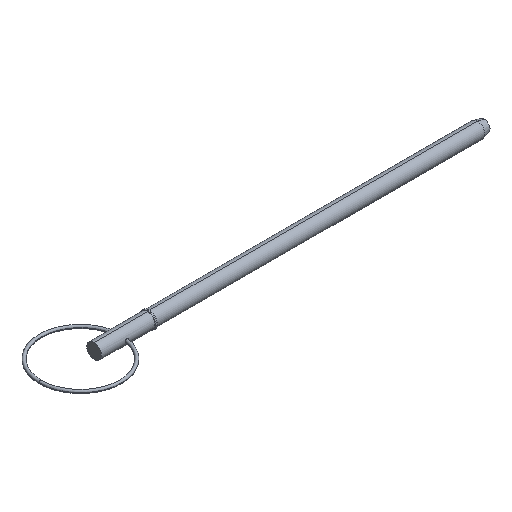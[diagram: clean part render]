
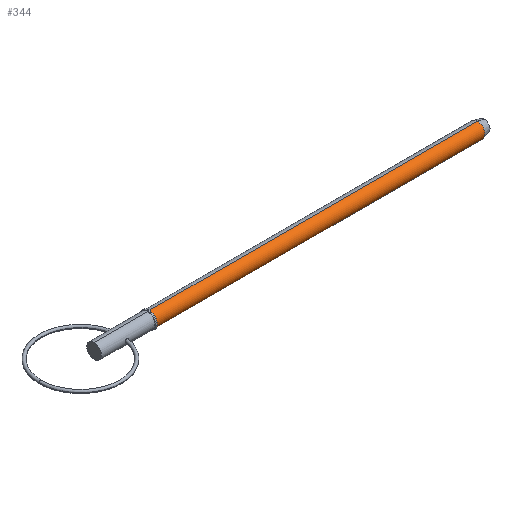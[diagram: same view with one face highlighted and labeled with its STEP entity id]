
A CAD part, isometric view. The second image highlights one B-rep face of the part: STEP entity #344.
In plain terms, the highlighted cylindrical face has radius 2.38 mm (diameter 4.76 mm), a partial arc.
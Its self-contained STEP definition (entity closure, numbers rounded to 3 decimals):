
#1 = FACE_OUTER_BOUND ( 'NONE', #764, .T. ) ;
#19 = AXIS2_PLACEMENT_3D ( 'NONE', #805, #727, #814 ) ;
#27 = ORIENTED_EDGE ( 'NONE', *, *, #901, .F. ) ;
#31 = LINE ( 'NONE', #90, #217 ) ;
#41 = CARTESIAN_POINT ( 'NONE',  ( 17.45, 0., 0. ) ) ;
#76 = CARTESIAN_POINT ( 'NONE',  ( 121.909, 0., 0. ) ) ;
#90 = CARTESIAN_POINT ( 'NONE',  ( 0., 0., 2.38 ) ) ;
#108 = VERTEX_POINT ( 'NONE', #751 ) ;
#140 = DIRECTION ( 'NONE',  ( 0., 0., -1. ) ) ;
#217 = VECTOR ( 'NONE', #374, 1000. ) ;
#279 = VERTEX_POINT ( 'NONE', #652 ) ;
#340 = AXIS2_PLACEMENT_3D ( 'NONE', #41, #493, #140 ) ;
#344 = ADVANCED_FACE ( 'NONE', ( #1 ), #503, .T. ) ;
#374 = DIRECTION ( 'NONE',  ( 1., 0., 0. ) ) ;
#375 = DIRECTION ( 'NONE',  ( 0., 0., -1. ) ) ;
#383 = VECTOR ( 'NONE', #914, 1000. ) ;
#493 = DIRECTION ( 'NONE',  ( 1., 0., 0. ) ) ;
#498 = ORIENTED_EDGE ( 'NONE', *, *, #774, .T. ) ;
#503 = CYLINDRICAL_SURFACE ( 'NONE', #19, 2.38 ) ;
#575 = CARTESIAN_POINT ( 'NONE',  ( 121.909, 0., -2.38 ) ) ;
#580 = ORIENTED_EDGE ( 'NONE', *, *, #587, .F. ) ;
#587 = EDGE_CURVE ( 'NONE', #279, #108, #31, .T. ) ;
#627 = EDGE_CURVE ( 'NONE', #279, #668, #761, .T. ) ;
#652 = CARTESIAN_POINT ( 'NONE',  ( 17.45, 0., 2.38 ) ) ;
#655 = VERTEX_POINT ( 'NONE', #575 ) ;
#668 = VERTEX_POINT ( 'NONE', #918 ) ;
#678 = AXIS2_PLACEMENT_3D ( 'NONE', #76, #752, #375 ) ;
#692 = CARTESIAN_POINT ( 'NONE',  ( 0., 0., -2.38 ) ) ;
#727 = DIRECTION ( 'NONE',  ( 1., 0., 0. ) ) ;
#751 = CARTESIAN_POINT ( 'NONE',  ( 121.909, 0., 2.38 ) ) ;
#752 = DIRECTION ( 'NONE',  ( 1., 0., 0. ) ) ;
#761 = CIRCLE ( 'NONE', #340, 2.38 ) ;
#764 = EDGE_LOOP ( 'NONE', ( #580, #884, #498, #27 ) ) ;
#774 = EDGE_CURVE ( 'NONE', #668, #655, #928, .T. ) ;
#805 = CARTESIAN_POINT ( 'NONE',  ( 0., 0., 0. ) ) ;
#814 = DIRECTION ( 'NONE',  ( 0., 0., -1. ) ) ;
#884 = ORIENTED_EDGE ( 'NONE', *, *, #627, .T. ) ;
#901 = EDGE_CURVE ( 'NONE', #108, #655, #926, .T. ) ;
#914 = DIRECTION ( 'NONE',  ( 1., 0., 0. ) ) ;
#918 = CARTESIAN_POINT ( 'NONE',  ( 17.45, 0., -2.38 ) ) ;
#926 = CIRCLE ( 'NONE', #678, 2.38 ) ;
#928 = LINE ( 'NONE', #692, #383 ) ;
